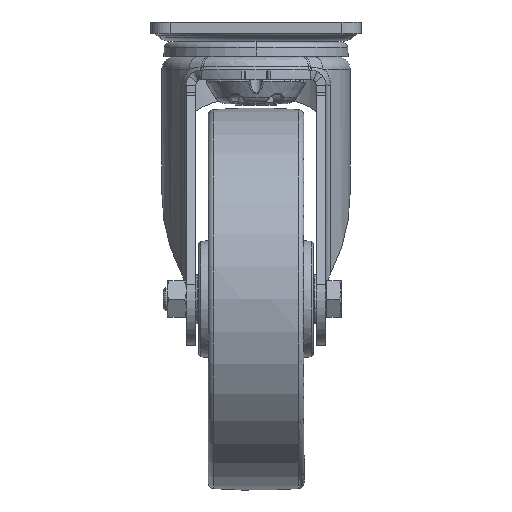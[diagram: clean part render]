
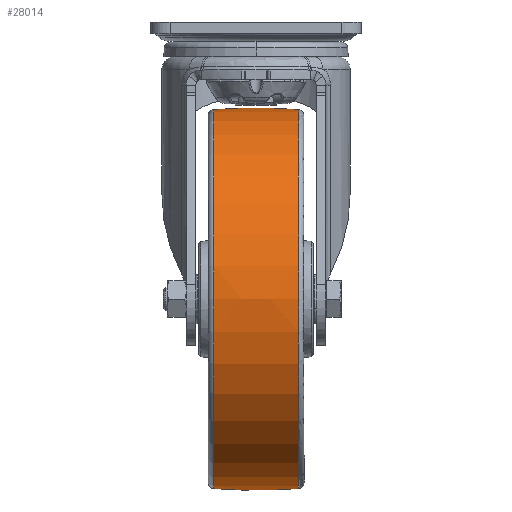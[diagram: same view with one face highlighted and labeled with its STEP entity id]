
A CAD part, top view. The second image highlights one B-rep face of the part: STEP entity #28014.
In plain terms, the highlighted free-form (B-spline) face has degree [3, 3] with [7, 4] control points.
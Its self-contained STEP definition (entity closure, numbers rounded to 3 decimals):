
#1450 = CARTESIAN_POINT ( 'NONE',  ( -7.718, -100.1, 6.298 ) ) ;
#6237 = CARTESIAN_POINT ( 'NONE',  ( -23.109, 98.913, 6.223 ) ) ;
#6728 = CARTESIAN_POINT ( 'NONE',  ( 7.718, 0., -100.298 ) ) ;
#6983 = CARTESIAN_POINT ( 'NONE',  ( -23.109, 0., -99.109 ) ) ;
#8582 = CARTESIAN_POINT ( 'NONE',  ( 0., -200., 0. ) ) ;
#9320 =( BOUNDED_SURFACE ( )  B_SPLINE_SURFACE ( 3, 3, ( 
 ( #29679, #1450, #70087, #70581 ),
 ( #47489, #41206, #23663, #53304 ),
 ( #35419, #35662, #24422, #23913 ),
 ( #6983, #35167, #6728, #40712 ),
 ( #18885, #59129, #64756, #24670 ),
 ( #65011, #58633, #30415, #63996 ),
 ( #6237, #18113, #18373, #24172 ) ),
 .UNSPECIFIED., .F., .F., .T. ) 
 B_SPLINE_SURFACE_WITH_KNOTS ( ( 4, 3, 4 ),
 ( 4, 4 ),
 ( 0., 1., 2. ),
 ( 0., 1. ),
 .UNSPECIFIED. ) 
 GEOMETRIC_REPRESENTATION_ITEM ( )  RATIONAL_B_SPLINE_SURFACE ( (
 ( 1.189, 1.187, 1.187, 1.189),
 ( 0.939, 0.937, 0.937, 0.939),
 ( 0.939, 0.937, 0.937, 0.939),
 ( 1.189, 1.187, 1.187, 1.189),
 ( 0.939, 0.937, 0.937, 0.939),
 ( 0.939, 0.937, 0.937, 0.939),
 ( 1.189, 1.187, 1.187, 1.189) ) ) 
 REPRESENTATION_ITEM ( '' )  SURFACE ( )  );
#10341 = DIRECTION ( 'NONE',  ( 0., -1., 0. ) ) ;
#10449 = CARTESIAN_POINT ( 'NONE',  ( 22.222, 0., 0. ) ) ;
#11443 = DIRECTION ( 'NONE',  ( 0., -1., 0. ) ) ;
#13666 = CIRCLE ( 'NONE', #68369, 99.176 ) ;
#14413 = DIRECTION ( 'NONE',  ( 0.074, 0.997, 0. ) ) ;
#16223 = EDGE_LOOP ( 'NONE', ( #19212, #31857, #71772, #26418 ) ) ;
#18113 = CARTESIAN_POINT ( 'NONE',  ( -7.718, 100.1, 6.298 ) ) ;
#18373 = CARTESIAN_POINT ( 'NONE',  ( 7.718, 100.1, 6.298 ) ) ;
#18885 = CARTESIAN_POINT ( 'NONE',  ( -23.109, 60.991, -99.109 ) ) ;
#19212 = ORIENTED_EDGE ( 'NONE', *, *, #53658, .T. ) ;
#21981 = DIRECTION ( 'NONE',  ( 1., 0., 0. ) ) ;
#23566 = VERTEX_POINT ( 'NONE', #58084 ) ;
#23663 = CARTESIAN_POINT ( 'NONE',  ( 7.718, -103.975, -55.304 ) ) ;
#23913 = CARTESIAN_POINT ( 'NONE',  ( 23.109, -60.991, -99.109 ) ) ;
#24172 = CARTESIAN_POINT ( 'NONE',  ( 23.109, 98.913, 6.223 ) ) ;
#24422 = CARTESIAN_POINT ( 'NONE',  ( 7.718, -61.723, -100.298 ) ) ;
#24670 = CARTESIAN_POINT ( 'NONE',  ( 23.109, 60.991, -99.109 ) ) ;
#25128 = CARTESIAN_POINT ( 'NONE',  ( -22.222, 99.176, 0. ) ) ;
#26418 = ORIENTED_EDGE ( 'NONE', *, *, #37773, .T. ) ;
#27058 = CARTESIAN_POINT ( 'NONE',  ( 0., 200., 0. ) ) ;
#27278 = AXIS2_PLACEMENT_3D ( 'NONE', #27058, #38073, #66715 ) ;
#28014 = ADVANCED_FACE ( 'NONE', ( #41440 ), #9320, .T. ) ;
#29202 = VERTEX_POINT ( 'NONE', #33889 ) ;
#29355 = AXIS2_PLACEMENT_3D ( 'NONE', #8582, #48590, #14413 ) ;
#29679 = CARTESIAN_POINT ( 'NONE',  ( -23.109, -98.913, 6.223 ) ) ;
#30415 = CARTESIAN_POINT ( 'NONE',  ( 7.718, 103.975, -55.304 ) ) ;
#31857 = ORIENTED_EDGE ( 'NONE', *, *, #65265, .F. ) ;
#33289 = VERTEX_POINT ( 'NONE', #25128 ) ;
#33889 = CARTESIAN_POINT ( 'NONE',  ( 22.222, -99.176, 0. ) ) ;
#35167 = CARTESIAN_POINT ( 'NONE',  ( -7.718, 0., -100.298 ) ) ;
#35419 = CARTESIAN_POINT ( 'NONE',  ( -23.109, -60.991, -99.109 ) ) ;
#35662 = CARTESIAN_POINT ( 'NONE',  ( -7.718, -61.723, -100.298 ) ) ;
#37773 = EDGE_CURVE ( 'NONE', #29202, #48728, #59092, .T. ) ;
#38073 = DIRECTION ( 'NONE',  ( 0., 0., -1. ) ) ;
#40712 = CARTESIAN_POINT ( 'NONE',  ( 23.109, 0., -99.109 ) ) ;
#41206 = CARTESIAN_POINT ( 'NONE',  ( -7.718, -103.975, -55.304 ) ) ;
#41440 = FACE_OUTER_BOUND ( 'NONE', #16223, .T. ) ;
#45123 = CIRCLE ( 'NONE', #29355, 300. ) ;
#47113 = EDGE_CURVE ( 'NONE', #29202, #23566, #49466, .T. ) ;
#47489 = CARTESIAN_POINT ( 'NONE',  ( -23.109, -102.743, -54.648 ) ) ;
#48590 = DIRECTION ( 'NONE',  ( 0., 0., 1. ) ) ;
#48728 = VERTEX_POINT ( 'NONE', #55800 ) ;
#49466 = CIRCLE ( 'NONE', #71046, 99.176 ) ;
#50624 = CARTESIAN_POINT ( 'NONE',  ( -22.222, 0., 0. ) ) ;
#53304 = CARTESIAN_POINT ( 'NONE',  ( 23.109, -102.743, -54.648 ) ) ;
#53658 = EDGE_CURVE ( 'NONE', #48728, #33289, #13666, .T. ) ;
#55800 = CARTESIAN_POINT ( 'NONE',  ( -22.222, -99.176, 0. ) ) ;
#58084 = CARTESIAN_POINT ( 'NONE',  ( 22.222, 99.176, 0. ) ) ;
#58633 = CARTESIAN_POINT ( 'NONE',  ( -7.718, 103.975, -55.304 ) ) ;
#59092 = CIRCLE ( 'NONE', #27278, 300. ) ;
#59129 = CARTESIAN_POINT ( 'NONE',  ( -7.718, 61.723, -100.298 ) ) ;
#62161 = DIRECTION ( 'NONE',  ( 1., 0., 0. ) ) ;
#63996 = CARTESIAN_POINT ( 'NONE',  ( 23.109, 102.743, -54.648 ) ) ;
#64756 = CARTESIAN_POINT ( 'NONE',  ( 7.718, 61.723, -100.298 ) ) ;
#65011 = CARTESIAN_POINT ( 'NONE',  ( -23.109, 102.743, -54.648 ) ) ;
#65265 = EDGE_CURVE ( 'NONE', #23566, #33289, #45123, .T. ) ;
#66715 = DIRECTION ( 'NONE',  ( 0.074, -0.997, 0. ) ) ;
#68369 = AXIS2_PLACEMENT_3D ( 'NONE', #50624, #21981, #10341 ) ;
#70087 = CARTESIAN_POINT ( 'NONE',  ( 7.718, -100.1, 6.298 ) ) ;
#70581 = CARTESIAN_POINT ( 'NONE',  ( 23.109, -98.913, 6.223 ) ) ;
#71046 = AXIS2_PLACEMENT_3D ( 'NONE', #10449, #62161, #11443 ) ;
#71772 = ORIENTED_EDGE ( 'NONE', *, *, #47113, .F. ) ;
